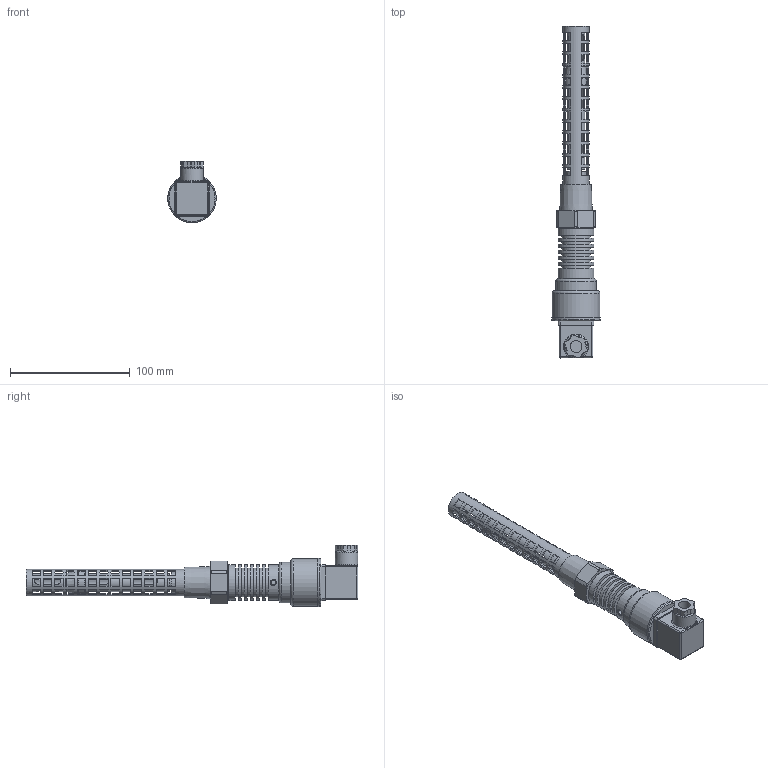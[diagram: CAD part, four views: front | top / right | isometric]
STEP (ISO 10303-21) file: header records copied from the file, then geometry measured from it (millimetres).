
FILE_DESCRIPTION((''),'2;1');
FILE_NAME('\\hbpdc01\Data\Mekanisk design\HBSO1-LT\5. STEP files\HBSO1-LT-R1.stp','2017-07-20T13:37:02',('kc'),(''),'Autodesk Inventor 2013','Autodesk Inventor 2013','');
FILE_SCHEMA(('AUTOMOTIVE_DESIGN { 1 0 10303 214 1 1 1 1 }'));
Length unit declared in the file: millimetre
Products named in the file (1): HBSO1-LT-R1
Bounding box: 40.37 x 277.03 x 51.29 mm (x, y, z)
Volume: 96382 mm3; surface area: 64536.4 mm2
Topology: 33 solids, 33 shells, 925 faces, 2538 edges, 1633 vertices
Faces by surface type: plane 623, cylinder 177, torus 46, bspline 36, cone 36, sphere 7
Full cylindrical faces by diameter (mm): 0.7 x1, 2.459 x1, 2.8 x1, 3 x3, 3.5 x1, 4 x1, 4.134 x3, 5 x4, 5.3 x2, 5.7 x1, 6.2 x2, 7 x2, 8 x1, 8.5 x1, 9 x1, 10 x4, 10.5 x3, 12.5 x2, 13 x1, 14 x4, 15 x3, 15.1 x1, 16 x1, 17 x1, 18 x1, 18.5 x1, 18.6 x1, 19 x1, 19.9 x2, 20 x4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
Entity records: 32316 total; most frequent: CARTESIAN_POINT 8383, DIRECTION 4631, ORIENTED_EDGE 4544, EDGE_CURVE 2272, AXIS2_PLACEMENT_3D 1662, VERTEX_POINT 1540, EDGE_LOOP 1318, VECTOR 1307
